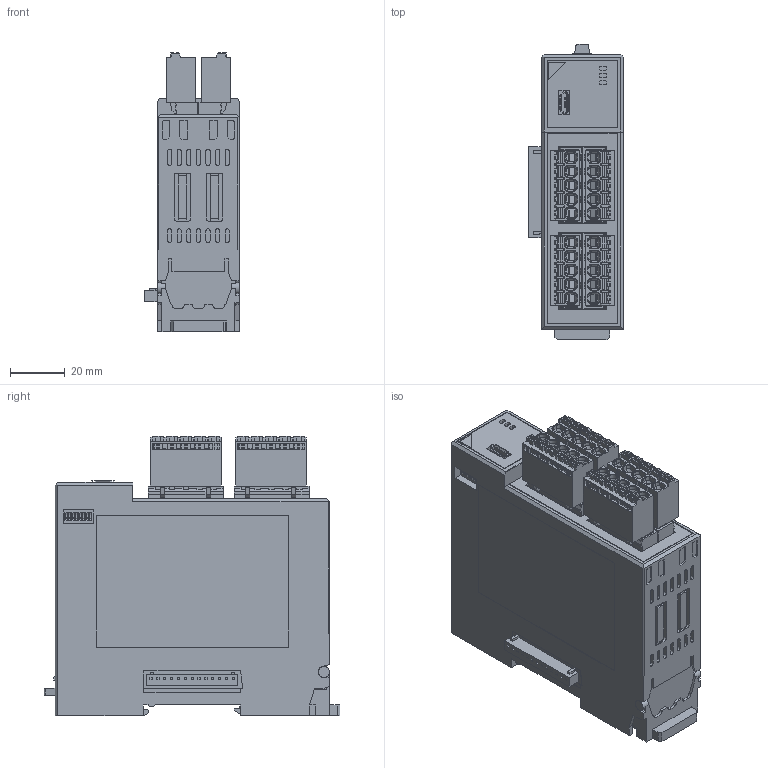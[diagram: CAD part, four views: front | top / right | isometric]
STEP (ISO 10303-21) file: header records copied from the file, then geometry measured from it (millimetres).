
FILE_DESCRIPTION (( 'STEP AP203' ), '1' );
FILE_NAME ('QAM2-4C_260721.STEP', '2026-07-22T00:48:24', ( '' ), ( '' ), 'SwSTEP 2.0', 'SolidWorks 2025', '' );
FILE_SCHEMA (( 'CONFIG_CONTROL_DESIGN' ));
Length unit declared in the file: millimetre
Products named in the file (3): QAM2-4C_260721; DINKLE_2ess-05P_new
Assembly tree (5 placements, depth 2):
  QAM2-4C_260721
    QAM2-4C_260721
    DINKLE_2ess-05P_new  x4
Bounding box: 34.5 x 107.85 x 102 mm (x, y, z)
Volume: 249893.6 mm3; surface area: 51252.5 mm2
Topology: 5 solids, 77 shells, 6306 faces, 15575 edges, 9624 vertices
Faces by surface type: plane 3378, cylinder 1870, bspline 448, torus 260, sphere 208, cone 142
Entity records: 97058 total; most frequent: CARTESIAN_POINT 28231, ORIENTED_EDGE 14544, DIRECTION 13702, EDGE_CURVE 7272, VECTOR 5308, LINE 5308, VERTEX_POINT 4635, AXIS2_PLACEMENT_3D 4197
